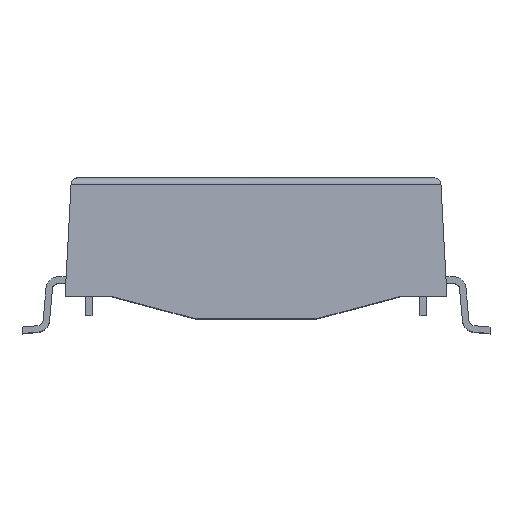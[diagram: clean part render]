
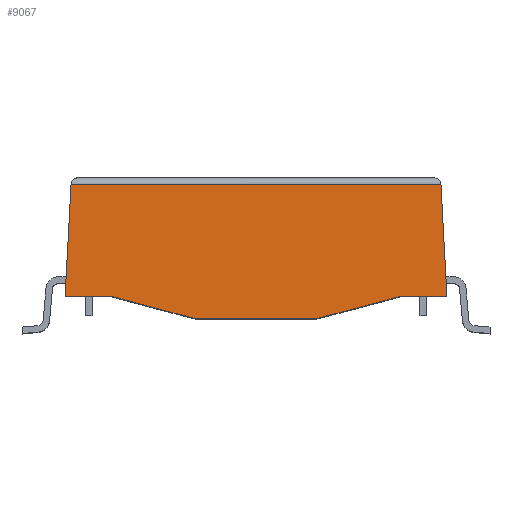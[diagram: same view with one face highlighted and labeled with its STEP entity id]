
A CAD part, top view. The second image highlights one B-rep face of the part: STEP entity #9067.
In plain terms, the highlighted planar face has unit normal (0, 0.035, 0.999).
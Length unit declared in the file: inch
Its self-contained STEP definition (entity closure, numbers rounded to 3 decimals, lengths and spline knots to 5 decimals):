
#144 = EDGE_CURVE ( 'NONE', #4721, #7952, #10178, .T. ) ;
#238 = VERTEX_POINT ( 'NONE', #9086 ) ;
#323 = CARTESIAN_POINT ( 'NONE',  ( 0., -0.218, 0.259 ) ) ;
#553 = VERTEX_POINT ( 'NONE', #3077 ) ;
#1233 = EDGE_CURVE ( 'NONE', #5822, #4721, #11914, .T. ) ;
#1474 = ORIENTED_EDGE ( 'NONE', *, *, #6937, .T. ) ;
#1547 = VECTOR ( 'NONE', #2240, 39.37008 ) ;
#1900 = LINE ( 'NONE', #14717, #1547 ) ;
#1957 = CARTESIAN_POINT ( 'NONE',  ( -0.28658, -0.00965, 0.25172 ) ) ;
#2048 = ORIENTED_EDGE ( 'NONE', *, *, #5276, .T. ) ;
#2105 = DIRECTION ( 'NONE',  ( 1., 0., 0. ) ) ;
#2185 = VERTEX_POINT ( 'NONE', #13469 ) ;
#2240 = DIRECTION ( 'NONE',  ( -0.052, 0.998, -0.035 ) ) ;
#2386 = ORIENTED_EDGE ( 'NONE', *, *, #5131, .T. ) ;
#2621 = LINE ( 'NONE', #8899, #2964 ) ;
#2781 = DIRECTION ( 'NONE',  ( 0.966, -0.259, 0.009 ) ) ;
#2964 = VECTOR ( 'NONE', #2105, 39.37008 ) ;
#3077 = CARTESIAN_POINT ( 'NONE',  ( 0.225, -0.183, 0.25778 ) ) ;
#3515 = CARTESIAN_POINT ( 'NONE',  ( 0., -0.00965, 0.25172 ) ) ;
#3578 = PLANE ( 'NONE',  #8919 ) ;
#4316 = ORIENTED_EDGE ( 'NONE', *, *, #7011, .T. ) ;
#4612 = EDGE_CURVE ( 'NONE', #2185, #5822, #8647, .T. ) ;
#4617 = ORIENTED_EDGE ( 'NONE', *, *, #144, .T. ) ;
#4721 = VERTEX_POINT ( 'NONE', #5001 ) ;
#4890 = DIRECTION ( 'NONE',  ( 1., 0., 0. ) ) ;
#4909 = VECTOR ( 'NONE', #6820, 39.37008 ) ;
#5001 = CARTESIAN_POINT ( 'NONE',  ( -0.225, -0.183, 0.25778 ) ) ;
#5131 = EDGE_CURVE ( 'NONE', #7865, #2185, #5260, .T. ) ;
#5260 = LINE ( 'NONE', #3515, #4909 ) ;
#5276 = EDGE_CURVE ( 'NONE', #7952, #6373, #7216, .T. ) ;
#5544 = CARTESIAN_POINT ( 'NONE',  ( -0.29567, -0.183, 0.25778 ) ) ;
#5631 = VECTOR ( 'NONE', #9896, 39.37008 ) ;
#5747 = LINE ( 'NONE', #7054, #8423 ) ;
#5822 = VERTEX_POINT ( 'NONE', #13721 ) ;
#5841 = DIRECTION ( 'NONE',  ( 0., -0.999, 0.035 ) ) ;
#5883 = VECTOR ( 'NONE', #12615, 39.37008 ) ;
#6240 = CARTESIAN_POINT ( 'NONE',  ( 0.28658, -0.00965, 0.25172 ) ) ;
#6373 = VERTEX_POINT ( 'NONE', #13867 ) ;
#6820 = DIRECTION ( 'NONE',  ( -1., 0., 0. ) ) ;
#6937 = EDGE_CURVE ( 'NONE', #553, #238, #2621, .T. ) ;
#7011 = EDGE_CURVE ( 'NONE', #238, #7865, #1900, .T. ) ;
#7054 = CARTESIAN_POINT ( 'NONE',  ( 0.09438, -0.218, 0.259 ) ) ;
#7216 = LINE ( 'NONE', #323, #9527 ) ;
#7237 = FACE_OUTER_BOUND ( 'NONE', #7489, .T. ) ;
#7489 = EDGE_LOOP ( 'NONE', ( #11425, #1474, #4316, #2386, #10380, #13560, #4617, #2048 ) ) ;
#7519 = VECTOR ( 'NONE', #2781, 39.37008 ) ;
#7580 = CARTESIAN_POINT ( 'NONE',  ( -0.09438, -0.218, 0.259 ) ) ;
#7865 = VERTEX_POINT ( 'NONE', #6240 ) ;
#7952 = VERTEX_POINT ( 'NONE', #7580 ) ;
#8211 = DIRECTION ( 'NONE',  ( 0.966, 0.259, -0.009 ) ) ;
#8423 = VECTOR ( 'NONE', #8211, 39.37008 ) ;
#8647 = LINE ( 'NONE', #1957, #5631 ) ;
#8899 = CARTESIAN_POINT ( 'NONE',  ( -0.29567, -0.183, 0.25778 ) ) ;
#8919 = AXIS2_PLACEMENT_3D ( 'NONE', #13728, #12643, #5841 ) ;
#9067 = ADVANCED_FACE ( 'NONE', ( #7237 ), #3578, .T. ) ;
#9086 = CARTESIAN_POINT ( 'NONE',  ( 0.29567, -0.183, 0.25778 ) ) ;
#9527 = VECTOR ( 'NONE', #4890, 39.37008 ) ;
#9896 = DIRECTION ( 'NONE',  ( -0.052, -0.998, 0.035 ) ) ;
#10178 = LINE ( 'NONE', #11737, #7519 ) ;
#10380 = ORIENTED_EDGE ( 'NONE', *, *, #4612, .T. ) ;
#10827 = EDGE_CURVE ( 'NONE', #6373, #553, #5747, .T. ) ;
#11425 = ORIENTED_EDGE ( 'NONE', *, *, #10827, .T. ) ;
#11737 = CARTESIAN_POINT ( 'NONE',  ( -0.225, -0.183, 0.25778 ) ) ;
#11914 = LINE ( 'NONE', #5544, #5883 ) ;
#12615 = DIRECTION ( 'NONE',  ( 1., 0., 0. ) ) ;
#12643 = DIRECTION ( 'NONE',  ( 0., 0.035, 0.999 ) ) ;
#13469 = CARTESIAN_POINT ( 'NONE',  ( -0.28658, -0.00965, 0.25172 ) ) ;
#13560 = ORIENTED_EDGE ( 'NONE', *, *, #1233, .T. ) ;
#13721 = CARTESIAN_POINT ( 'NONE',  ( -0.29567, -0.183, 0.25778 ) ) ;
#13728 = CARTESIAN_POINT ( 'NONE',  ( -0.29567, -0.00965, 0.25172 ) ) ;
#13867 = CARTESIAN_POINT ( 'NONE',  ( 0.09438, -0.218, 0.259 ) ) ;
#14717 = CARTESIAN_POINT ( 'NONE',  ( 0.29567, -0.183, 0.25778 ) ) ;
